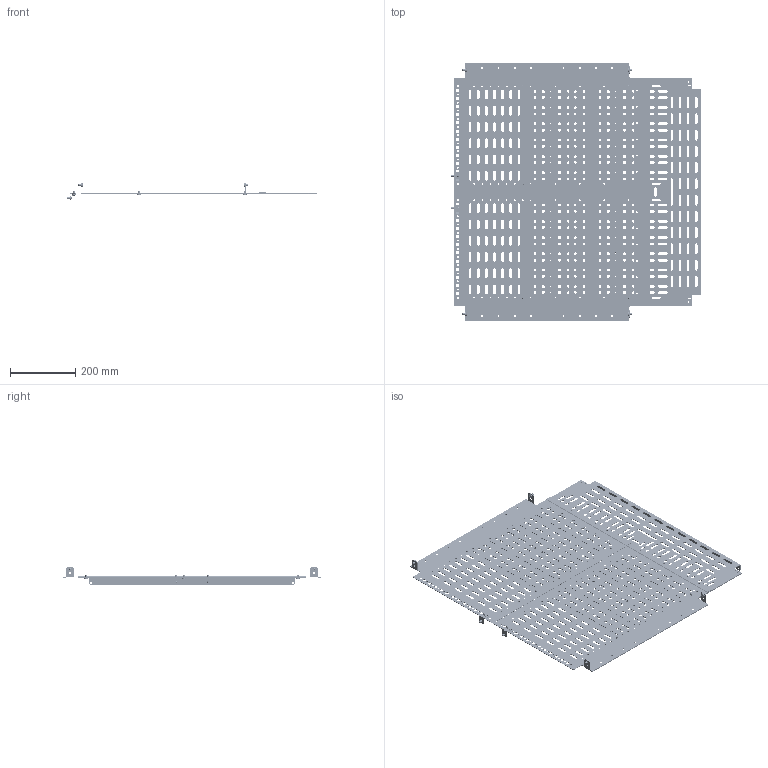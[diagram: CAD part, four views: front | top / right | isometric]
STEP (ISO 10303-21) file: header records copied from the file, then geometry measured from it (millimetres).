
FILE_DESCRIPTION (( 'STEP AP214' ), '1' );
FILE_NAME ('FO-00-SWMP-080-060 Ïåðåãîðîäêà ñåêöèîíèðîâàíèÿ ìîíòàæíîé ïàíåëè çàäíÿÿ ãîðèçîíòàëüíàÿ 800õ600 ìì â øêàô ãëóáèíîé 1000 ìì.STEP', '2025-08-27T07:41:43', ( '' ), ( '' ), 'SwSTEP 2.0', 'SolidWorks 2023', '' );
FILE_SCHEMA (( 'AUTOMOTIVE_DESIGN' ));
Products named in the file (5): Болты 800; FO-00-SWMP-080-060 Перегородка секционирования монтажной панели задняя горизонтальная 800х600 мм в шкаф глубиной 1000 мм; Уголок; Перегородка секционирования гориз. 800х600; Перегородка секционирования гориз. 800x600
Assembly tree (6 placements, depth 2):
  FO-00-SWMP-080-060 Перегородка секционирования монтажной панели задняя горизонтальная 800х600 мм в шкаф глубиной 1000 мм
    Перегородка секционирования гориз. 800x600
    Перегородка секционирования гориз. 800х600
    Болты 800  x2
    Уголок  x2
Bounding box: 769.5 x 793.6 x 55.5 mm (x, y, z)
Volume: 1137326.2 mm3; surface area: 1556324.9 mm2
Topology: 10 solids, 10 shells, 3822 faces, 11220 edges, 7448 vertices
Faces by surface type: cylinder 2078, plane 1648, cone 44, torus 40, sphere 12
Entity records: 126750 total; most frequent: DIRECTION 21994, CARTESIAN_POINT 21962, ORIENTED_EDGE 21588, EDGE_CURVE 10794, AXIS2_PLACEMENT_3D 7628, VERTEX_POINT 7176, LINE 6738, VECTOR 6738
